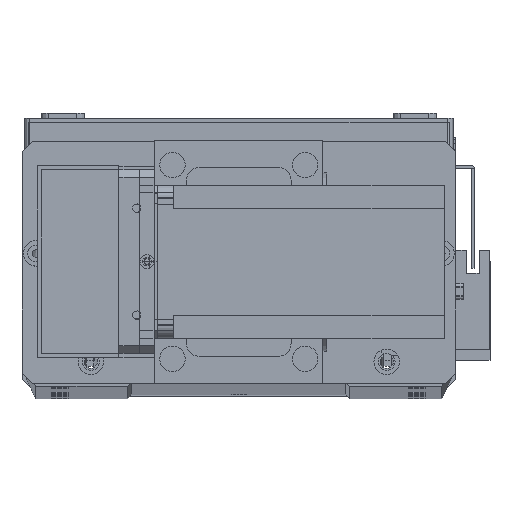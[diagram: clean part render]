
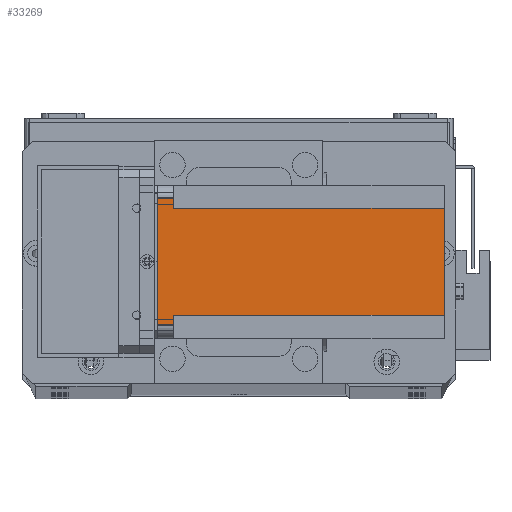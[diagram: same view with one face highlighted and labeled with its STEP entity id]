
A CAD part, top view. The second image highlights one B-rep face of the part: STEP entity #33269.
In plain terms, the highlighted planar face has unit normal (0, 0, 1) as drawn and (-1, 0, 0) by its records, which use the part's own axes.
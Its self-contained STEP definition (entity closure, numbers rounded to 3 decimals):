
#485 = CARTESIAN_POINT ( 'NONE',  ( 0., 9., -112.5 ) ) ;
#1255 = VERTEX_POINT ( 'NONE', #485 ) ;
#1418 = DIRECTION ( 'NONE',  ( 0., -1., 0. ) ) ;
#1671 = DIRECTION ( 'NONE',  ( 0., 0., -1. ) ) ;
#4034 = CARTESIAN_POINT ( 'NONE',  ( 0., 55., -112.5 ) ) ;
#4624 = VERTEX_POINT ( 'NONE', #10082 ) ;
#4740 = VECTOR ( 'NONE', #1671, 1000. ) ;
#4862 = LINE ( 'NONE', #32536, #24400 ) ;
#5396 = VECTOR ( 'NONE', #9710, 1000. ) ;
#8446 = CARTESIAN_POINT ( 'NONE',  ( 0., 9., -6.5 ) ) ;
#9000 = LINE ( 'NONE', #13430, #22280 ) ;
#9310 = CARTESIAN_POINT ( 'NONE',  ( 0., 5., 0. ) ) ;
#9378 = AXIS2_PLACEMENT_3D ( 'NONE', #30921, #15030, #33599 ) ;
#9710 = DIRECTION ( 'NONE',  ( 0., 1., 0. ) ) ;
#10082 = CARTESIAN_POINT ( 'NONE',  ( 0., 5., -6.5 ) ) ;
#10227 = EDGE_CURVE ( 'NONE', #20789, #33264, #13868, .T. ) ;
#10706 = FACE_OUTER_BOUND ( 'NONE', #16531, .T. ) ;
#10729 = ORIENTED_EDGE ( 'NONE', *, *, #31048, .F. ) ;
#11722 = CARTESIAN_POINT ( 'NONE',  ( 0., 55., -6.5 ) ) ;
#11827 = LINE ( 'NONE', #28297, #4740 ) ;
#12513 = VERTEX_POINT ( 'NONE', #9310 ) ;
#12684 = VECTOR ( 'NONE', #25755, 1000. ) ;
#12874 = CARTESIAN_POINT ( 'NONE',  ( 0., 51., -112.5 ) ) ;
#12892 = CARTESIAN_POINT ( 'NONE',  ( 0., 55., 0. ) ) ;
#13289 = LINE ( 'NONE', #25607, #5396 ) ;
#13318 = VERTEX_POINT ( 'NONE', #12892 ) ;
#13430 = CARTESIAN_POINT ( 'NONE',  ( 0., 0., -112.5 ) ) ;
#13643 = EDGE_CURVE ( 'NONE', #13318, #30369, #31773, .T. ) ;
#13868 = LINE ( 'NONE', #17741, #12684 ) ;
#14573 = DIRECTION ( 'NONE',  ( 0., 0., 1. ) ) ;
#14587 = CARTESIAN_POINT ( 'NONE',  ( 0., 0., 0. ) ) ;
#14994 = VECTOR ( 'NONE', #14573, 1000. ) ;
#15030 = DIRECTION ( 'NONE',  ( -1., 0., 0. ) ) ;
#16120 = DIRECTION ( 'NONE',  ( 0., -1., 0. ) ) ;
#16508 = EDGE_CURVE ( 'NONE', #4624, #12513, #17493, .T. ) ;
#16531 = EDGE_LOOP ( 'NONE', ( #27768, #20823, #10729, #21810, #20125, #16781, #28050, #28029 ) ) ;
#16629 = EDGE_CURVE ( 'NONE', #33264, #30369, #13289, .T. ) ;
#16645 = DIRECTION ( 'NONE',  ( 0., 1., 0. ) ) ;
#16781 = ORIENTED_EDGE ( 'NONE', *, *, #10227, .F. ) ;
#17244 = CARTESIAN_POINT ( 'NONE',  ( 0., 5., -112.5 ) ) ;
#17493 = LINE ( 'NONE', #17244, #14994 ) ;
#17741 = CARTESIAN_POINT ( 'NONE',  ( 0., 51., -112.5 ) ) ;
#20079 = DIRECTION ( 'NONE',  ( 0., 0., -1. ) ) ;
#20125 = ORIENTED_EDGE ( 'NONE', *, *, #16629, .F. ) ;
#20789 = VERTEX_POINT ( 'NONE', #12874 ) ;
#20823 = ORIENTED_EDGE ( 'NONE', *, *, #16508, .T. ) ;
#21810 = ORIENTED_EDGE ( 'NONE', *, *, #13643, .T. ) ;
#22052 = VECTOR ( 'NONE', #1418, 1000. ) ;
#22280 = VECTOR ( 'NONE', #16120, 1000. ) ;
#22671 = EDGE_CURVE ( 'NONE', #20789, #1255, #9000, .T. ) ;
#22919 = LINE ( 'NONE', #14587, #22052 ) ;
#24400 = VECTOR ( 'NONE', #16645, 1000. ) ;
#24615 = EDGE_CURVE ( 'NONE', #34114, #1255, #11827, .T. ) ;
#25603 = CARTESIAN_POINT ( 'NONE',  ( 0., 51., -6.5 ) ) ;
#25607 = CARTESIAN_POINT ( 'NONE',  ( 0., 60., -6.5 ) ) ;
#25755 = DIRECTION ( 'NONE',  ( 0., 0., 1. ) ) ;
#27768 = ORIENTED_EDGE ( 'NONE', *, *, #33534, .F. ) ;
#28029 = ORIENTED_EDGE ( 'NONE', *, *, #24615, .F. ) ;
#28050 = ORIENTED_EDGE ( 'NONE', *, *, #22671, .T. ) ;
#28269 = PLANE ( 'NONE',  #9378 ) ;
#28297 = CARTESIAN_POINT ( 'NONE',  ( 0., 9., -112.5 ) ) ;
#30369 = VERTEX_POINT ( 'NONE', #11722 ) ;
#30921 = CARTESIAN_POINT ( 'NONE',  ( 0., 0., -112.5 ) ) ;
#30958 = VECTOR ( 'NONE', #20079, 1000. ) ;
#31048 = EDGE_CURVE ( 'NONE', #13318, #12513, #22919, .T. ) ;
#31773 = LINE ( 'NONE', #4034, #30958 ) ;
#32536 = CARTESIAN_POINT ( 'NONE',  ( 0., 0., -6.5 ) ) ;
#33264 = VERTEX_POINT ( 'NONE', #25603 ) ;
#33269 = ADVANCED_FACE ( 'NONE', ( #10706 ), #28269, .T. ) ;
#33534 = EDGE_CURVE ( 'NONE', #4624, #34114, #4862, .T. ) ;
#33599 = DIRECTION ( 'NONE',  ( 0., -1., 0. ) ) ;
#34114 = VERTEX_POINT ( 'NONE', #8446 ) ;
